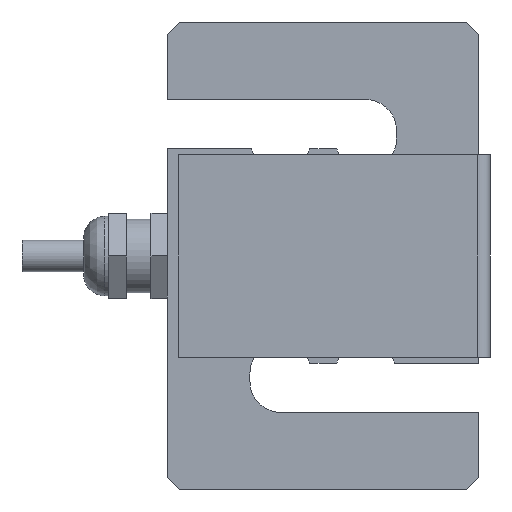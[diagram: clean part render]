
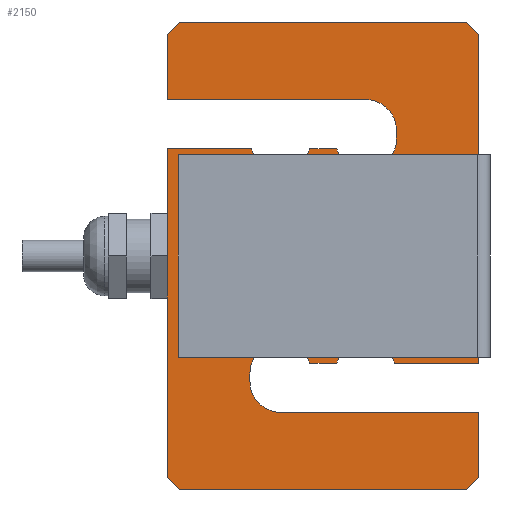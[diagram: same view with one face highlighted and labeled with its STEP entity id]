
A CAD part, front view. The second image highlights one B-rep face of the part: STEP entity #2150.
In plain terms, the highlighted planar face has unit normal (0, -1, 0).
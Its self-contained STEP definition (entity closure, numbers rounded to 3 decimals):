
#165=PLANE('',#2328);
#284=FACE_OUTER_BOUND('',#422,.T.);
#422=EDGE_LOOP('',(#1823,#1824,#1825,#1826,#1827,#1828,#1829,#1830,#1831,
#1832,#1833,#1834,#1835,#1836,#1837,#1838,#1839,#1840,#1841,#1842,#1843,
#1844,#1845,#1846));
#573=LINE('',#6160,#753);
#578=LINE('',#7547,#758);
#583=LINE('',#7557,#763);
#584=LINE('',#7560,#764);
#585=LINE('',#7562,#765);
#586=LINE('',#7566,#766);
#587=LINE('',#7570,#767);
#588=LINE('',#7574,#768);
#589=LINE('',#7576,#769);
#590=LINE('',#7577,#770);
#591=LINE('',#7579,#771);
#592=LINE('',#7581,#772);
#593=LINE('',#7583,#773);
#594=LINE('',#7587,#774);
#595=LINE('',#7591,#775);
#596=LINE('',#7595,#776);
#597=LINE('',#7597,#777);
#598=LINE('',#7598,#778);
#753=VECTOR('',#2743,10.);
#758=VECTOR('',#2758,10.);
#763=VECTOR('',#2767,10.);
#764=VECTOR('',#2770,10.);
#765=VECTOR('',#2771,10.);
#766=VECTOR('',#2774,10.);
#767=VECTOR('',#2777,10.);
#768=VECTOR('',#2780,10.);
#769=VECTOR('',#2781,10.);
#770=VECTOR('',#2782,10.);
#771=VECTOR('',#2783,10.);
#772=VECTOR('',#2784,10.);
#773=VECTOR('',#2785,10.);
#774=VECTOR('',#2788,10.);
#775=VECTOR('',#2791,10.);
#776=VECTOR('',#2794,10.);
#777=VECTOR('',#2795,10.);
#778=VECTOR('',#2796,10.);
#854=CIRCLE('',#2329,5.);
#855=CIRCLE('',#2330,5.);
#856=CIRCLE('',#2331,5.);
#857=CIRCLE('',#2332,5.);
#858=CIRCLE('',#2333,5.);
#859=CIRCLE('',#2334,5.);
#1009=VERTEX_POINT('',#6156);
#1011=VERTEX_POINT('',#6159);
#1017=VERTEX_POINT('',#7543);
#1019=VERTEX_POINT('',#7546);
#1022=VERTEX_POINT('',#7555);
#1023=VERTEX_POINT('',#7559);
#1024=VERTEX_POINT('',#7561);
#1025=VERTEX_POINT('',#7563);
#1026=VERTEX_POINT('',#7565);
#1027=VERTEX_POINT('',#7567);
#1028=VERTEX_POINT('',#7569);
#1029=VERTEX_POINT('',#7571);
#1030=VERTEX_POINT('',#7573);
#1031=VERTEX_POINT('',#7575);
#1032=VERTEX_POINT('',#7578);
#1033=VERTEX_POINT('',#7580);
#1034=VERTEX_POINT('',#7582);
#1035=VERTEX_POINT('',#7584);
#1036=VERTEX_POINT('',#7586);
#1037=VERTEX_POINT('',#7588);
#1038=VERTEX_POINT('',#7590);
#1039=VERTEX_POINT('',#7592);
#1040=VERTEX_POINT('',#7594);
#1041=VERTEX_POINT('',#7596);
#1282=EDGE_CURVE('',#1011,#1009,#573,.T.);
#1298=EDGE_CURVE('',#1019,#1017,#578,.T.);
#1303=EDGE_CURVE('',#1022,#1017,#583,.T.);
#1304=EDGE_CURVE('',#1022,#1023,#584,.T.);
#1305=EDGE_CURVE('',#1023,#1024,#585,.T.);
#1306=EDGE_CURVE('',#1025,#1024,#854,.T.);
#1307=EDGE_CURVE('',#1025,#1026,#586,.T.);
#1308=EDGE_CURVE('',#1026,#1027,#855,.T.);
#1309=EDGE_CURVE('',#1027,#1028,#587,.T.);
#1310=EDGE_CURVE('',#1028,#1029,#856,.T.);
#1311=EDGE_CURVE('',#1029,#1030,#588,.T.);
#1312=EDGE_CURVE('',#1030,#1031,#589,.T.);
#1313=EDGE_CURVE('',#1011,#1031,#590,.T.);
#1314=EDGE_CURVE('',#1032,#1009,#591,.T.);
#1315=EDGE_CURVE('',#1032,#1033,#592,.T.);
#1316=EDGE_CURVE('',#1033,#1034,#593,.T.);
#1317=EDGE_CURVE('',#1035,#1034,#857,.T.);
#1318=EDGE_CURVE('',#1035,#1036,#594,.T.);
#1319=EDGE_CURVE('',#1036,#1037,#858,.T.);
#1320=EDGE_CURVE('',#1037,#1038,#595,.T.);
#1321=EDGE_CURVE('',#1038,#1039,#859,.T.);
#1322=EDGE_CURVE('',#1039,#1040,#596,.T.);
#1323=EDGE_CURVE('',#1040,#1041,#597,.T.);
#1324=EDGE_CURVE('',#1019,#1041,#598,.T.);
#1823=ORIENTED_EDGE('',*,*,#1303,.F.);
#1824=ORIENTED_EDGE('',*,*,#1304,.T.);
#1825=ORIENTED_EDGE('',*,*,#1305,.T.);
#1826=ORIENTED_EDGE('',*,*,#1306,.F.);
#1827=ORIENTED_EDGE('',*,*,#1307,.T.);
#1828=ORIENTED_EDGE('',*,*,#1308,.T.);
#1829=ORIENTED_EDGE('',*,*,#1309,.T.);
#1830=ORIENTED_EDGE('',*,*,#1310,.T.);
#1831=ORIENTED_EDGE('',*,*,#1311,.T.);
#1832=ORIENTED_EDGE('',*,*,#1312,.T.);
#1833=ORIENTED_EDGE('',*,*,#1313,.F.);
#1834=ORIENTED_EDGE('',*,*,#1282,.T.);
#1835=ORIENTED_EDGE('',*,*,#1314,.F.);
#1836=ORIENTED_EDGE('',*,*,#1315,.T.);
#1837=ORIENTED_EDGE('',*,*,#1316,.T.);
#1838=ORIENTED_EDGE('',*,*,#1317,.F.);
#1839=ORIENTED_EDGE('',*,*,#1318,.T.);
#1840=ORIENTED_EDGE('',*,*,#1319,.T.);
#1841=ORIENTED_EDGE('',*,*,#1320,.T.);
#1842=ORIENTED_EDGE('',*,*,#1321,.T.);
#1843=ORIENTED_EDGE('',*,*,#1322,.T.);
#1844=ORIENTED_EDGE('',*,*,#1323,.T.);
#1845=ORIENTED_EDGE('',*,*,#1324,.F.);
#1846=ORIENTED_EDGE('',*,*,#1298,.T.);
#2150=ADVANCED_FACE('',(#284),#165,.F.);
#2328=AXIS2_PLACEMENT_3D('',#7558,#2768,#2769);
#2329=AXIS2_PLACEMENT_3D('',#7564,#2772,#2773);
#2330=AXIS2_PLACEMENT_3D('',#7568,#2775,#2776);
#2331=AXIS2_PLACEMENT_3D('',#7572,#2778,#2779);
#2332=AXIS2_PLACEMENT_3D('',#7585,#2786,#2787);
#2333=AXIS2_PLACEMENT_3D('',#7589,#2789,#2790);
#2334=AXIS2_PLACEMENT_3D('',#7593,#2792,#2793);
#2743=DIRECTION('',(1.,0.,0.));
#2758=DIRECTION('',(-1.,0.,0.));
#2767=DIRECTION('',(0.707,0.,0.707));
#2768=DIRECTION('center_axis',(0.,1.,0.));
#2769=DIRECTION('ref_axis',(1.,0.,0.));
#2770=DIRECTION('',(0.,0.,-1.));
#2771=DIRECTION('',(1.,0.,0.));
#2772=DIRECTION('center_axis',(0.,-1.,0.));
#2773=DIRECTION('ref_axis',(0.707,0.,0.707));
#2774=DIRECTION('',(0.,0.,-1.));
#2775=DIRECTION('center_axis',(0.,1.,0.));
#2776=DIRECTION('ref_axis',(1.,0.,0.));
#2777=DIRECTION('',(-1.,0.,0.));
#2778=DIRECTION('center_axis',(0.,1.,0.));
#2779=DIRECTION('ref_axis',(1.,0.,0.));
#2780=DIRECTION('',(-1.,0.,0.));
#2781=DIRECTION('',(0.,0.,-1.));
#2782=DIRECTION('',(-0.707,0.,0.707));
#2783=DIRECTION('',(-0.707,0.,-0.707));
#2784=DIRECTION('',(0.,0.,1.));
#2785=DIRECTION('',(-1.,0.,0.));
#2786=DIRECTION('center_axis',(0.,-1.,0.));
#2787=DIRECTION('ref_axis',(-0.707,0.,-0.707));
#2788=DIRECTION('',(0.,0.,1.));
#2789=DIRECTION('center_axis',(0.,1.,0.));
#2790=DIRECTION('ref_axis',(1.,0.,0.));
#2791=DIRECTION('',(1.,0.,0.));
#2792=DIRECTION('center_axis',(0.,1.,0.));
#2793=DIRECTION('ref_axis',(1.,0.,0.));
#2794=DIRECTION('',(1.,0.,0.));
#2795=DIRECTION('',(0.,0.,1.));
#2796=DIRECTION('',(0.707,0.,-0.707));
#6156=CARTESIAN_POINT('',(23.4,-9.5,-38.1));
#6159=CARTESIAN_POINT('',(-23.4,-9.5,-38.1));
#6160=CARTESIAN_POINT('',(-25.4,-9.5,-38.1));
#7543=CARTESIAN_POINT('',(-23.4,-9.5,38.1));
#7546=CARTESIAN_POINT('',(23.4,-9.5,38.1));
#7547=CARTESIAN_POINT('',(25.4,-9.5,38.1));
#7555=CARTESIAN_POINT('',(-25.4,-9.5,36.1));
#7557=CARTESIAN_POINT('',(-27.575,-9.5,33.925));
#7558=CARTESIAN_POINT('Origin',(0.,-9.5,0.));
#7559=CARTESIAN_POINT('',(-25.4,-9.5,25.5));
#7560=CARTESIAN_POINT('',(-25.4,-9.5,38.1));
#7561=CARTESIAN_POINT('',(6.943,-9.5,25.5));
#7562=CARTESIAN_POINT('',(-25.4,-9.5,25.5));
#7563=CARTESIAN_POINT('',(11.943,-9.5,20.5));
#7564=CARTESIAN_POINT('Origin',(6.943,-9.5,20.5));
#7565=CARTESIAN_POINT('',(11.943,-9.5,19.076));
#7566=CARTESIAN_POINT('',(11.943,-9.5,25.5));
#7567=CARTESIAN_POINT('',(2.198,-9.5,17.5));
#7568=CARTESIAN_POINT('Origin',(6.943,-9.5,19.076));
#7569=CARTESIAN_POINT('',(-2.198,-9.5,17.5));
#7570=CARTESIAN_POINT('',(-25.4,-9.5,17.5));
#7571=CARTESIAN_POINT('',(-11.688,-9.5,17.5));
#7572=CARTESIAN_POINT('Origin',(-6.943,-9.5,19.076));
#7573=CARTESIAN_POINT('',(-25.4,-9.5,17.5));
#7574=CARTESIAN_POINT('',(-25.4,-9.5,17.5));
#7575=CARTESIAN_POINT('',(-25.4,-9.5,-36.1));
#7576=CARTESIAN_POINT('',(-25.4,-9.5,38.1));
#7577=CARTESIAN_POINT('',(-27.575,-9.5,-33.925));
#7578=CARTESIAN_POINT('',(25.4,-9.5,-36.1));
#7579=CARTESIAN_POINT('',(27.575,-9.5,-33.925));
#7580=CARTESIAN_POINT('',(25.4,-9.5,-25.5));
#7581=CARTESIAN_POINT('',(25.4,-9.5,-38.1));
#7582=CARTESIAN_POINT('',(-6.943,-9.5,-25.5));
#7583=CARTESIAN_POINT('',(25.4,-9.5,-25.5));
#7584=CARTESIAN_POINT('',(-11.943,-9.5,-20.5));
#7585=CARTESIAN_POINT('Origin',(-6.943,-9.5,-20.5));
#7586=CARTESIAN_POINT('',(-11.943,-9.5,-19.076));
#7587=CARTESIAN_POINT('',(-11.943,-9.5,-25.5));
#7588=CARTESIAN_POINT('',(-2.198,-9.5,-17.5));
#7589=CARTESIAN_POINT('Origin',(-6.943,-9.5,-19.076));
#7590=CARTESIAN_POINT('',(2.198,-9.5,-17.5));
#7591=CARTESIAN_POINT('',(25.4,-9.5,-17.5));
#7592=CARTESIAN_POINT('',(11.688,-9.5,-17.5));
#7593=CARTESIAN_POINT('Origin',(6.943,-9.5,-19.076));
#7594=CARTESIAN_POINT('',(25.4,-9.5,-17.5));
#7595=CARTESIAN_POINT('',(25.4,-9.5,-17.5));
#7596=CARTESIAN_POINT('',(25.4,-9.5,36.1));
#7597=CARTESIAN_POINT('',(25.4,-9.5,-38.1));
#7598=CARTESIAN_POINT('',(27.575,-9.5,33.925));
